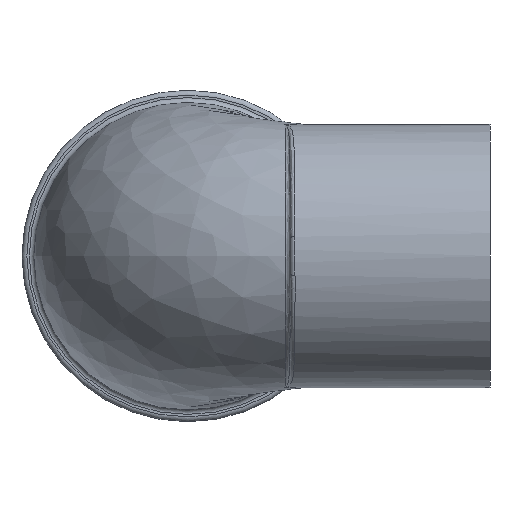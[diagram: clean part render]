
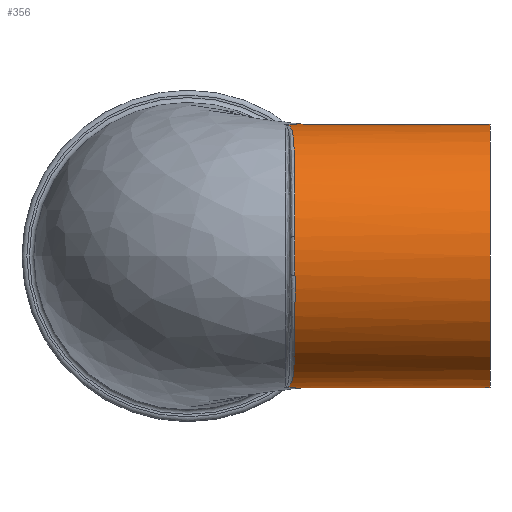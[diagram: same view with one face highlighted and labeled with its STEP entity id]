
A CAD part, front view. The second image highlights one B-rep face of the part: STEP entity #356.
In plain terms, the highlighted cylindrical face has radius 13.5 mm (diameter 27 mm), a full revolution.
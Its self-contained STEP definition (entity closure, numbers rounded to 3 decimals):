
#20=CYLINDRICAL_SURFACE('',#409,13.5);
#26=LINE('',#1068,#32);
#32=VECTOR('',#486,13.5);
#39=B_SPLINE_CURVE_WITH_KNOTS('',3,(#917,#918,#919,#920,#921,#922,#923,
#924,#925,#926,#927),.UNSPECIFIED.,.F.,.F.,(4,1,1,1,1,1,1,1,4),(0.009,
0.016,0.031,0.063,0.126,
0.252,0.755,1.258,1.761),
 .UNSPECIFIED.);
#43=B_SPLINE_CURVE_WITH_KNOTS('',3,(#1035,#1036,#1037,#1038,#1039,#1040,
#1041,#1042,#1043,#1044,#1045),.UNSPECIFIED.,.F.,.F.,(4,1,1,1,1,1,1,1,4),
(0.,0.755,1.258,1.509,1.635,
1.698,1.729,1.745,1.751),
 .UNSPECIFIED.);
#44=B_SPLINE_CURVE_WITH_KNOTS('',3,(#1048,#1049,#1050,#1051),
 .UNSPECIFIED.,.F.,.F.,(4,4),(-8.979,-8.896),
 .UNSPECIFIED.);
#45=B_SPLINE_CURVE_WITH_KNOTS('',3,(#1053,#1054,#1055,#1056,#1057,#1058,
#1059,#1060,#1061,#1062,#1063,#1064,#1065,#1066),.UNSPECIFIED.,.F.,.F.,
(4,2,2,2,2,2,4),(-1.886,-1.858,-1.463,
-1.073,-0.663,-0.24,0.),
 .UNSPECIFIED.);
#46=B_SPLINE_CURVE_WITH_KNOTS('',3,(#1073,#1074,#1075,#1076,#1077,#1078,
#1079,#1080,#1081,#1082,#1083,#1084,#1085,#1086),.UNSPECIFIED.,.F.,.F.,
(4,2,2,2,2,2,4),(-2.528,-2.201,-1.625,
-1.067,-0.537,0.,0.038),
 .UNSPECIFIED.);
#47=B_SPLINE_CURVE_WITH_KNOTS('',3,(#1087,#1088,#1089,#1090),
 .UNSPECIFIED.,.F.,.F.,(4,4),(-2.6,-2.523),
 .UNSPECIFIED.);
#72=FACE_OUTER_BOUND('',#95,.T.);
#95=EDGE_LOOP('',(#274,#275,#276,#277,#278,#279,#280,#281,#282,#283,#284));
#122=CIRCLE('',#408,13.5);
#123=CIRCLE('',#410,13.5);
#124=CIRCLE('',#411,13.5);
#153=VERTEX_POINT('',#902);
#154=VERTEX_POINT('',#916);
#156=VERTEX_POINT('',#943);
#158=VERTEX_POINT('',#1008);
#160=VERTEX_POINT('',#1047);
#161=VERTEX_POINT('',#1052);
#162=VERTEX_POINT('',#1067);
#163=VERTEX_POINT('',#1069);
#164=VERTEX_POINT('',#1072);
#196=EDGE_CURVE('',#153,#154,#39,.T.);
#201=EDGE_CURVE('',#154,#156,#122,.T.);
#204=EDGE_CURVE('',#156,#158,#43,.T.);
#205=EDGE_CURVE('',#160,#153,#44,.T.);
#206=EDGE_CURVE('',#161,#160,#45,.T.);
#207=EDGE_CURVE('',#161,#162,#26,.T.);
#208=EDGE_CURVE('',#162,#163,#123,.T.);
#209=EDGE_CURVE('',#163,#162,#124,.T.);
#210=EDGE_CURVE('',#164,#161,#46,.T.);
#211=EDGE_CURVE('',#158,#164,#47,.T.);
#274=ORIENTED_EDGE('',*,*,#204,.F.);
#275=ORIENTED_EDGE('',*,*,#201,.F.);
#276=ORIENTED_EDGE('',*,*,#196,.F.);
#277=ORIENTED_EDGE('',*,*,#205,.F.);
#278=ORIENTED_EDGE('',*,*,#206,.F.);
#279=ORIENTED_EDGE('',*,*,#207,.T.);
#280=ORIENTED_EDGE('',*,*,#208,.T.);
#281=ORIENTED_EDGE('',*,*,#209,.T.);
#282=ORIENTED_EDGE('',*,*,#207,.F.);
#283=ORIENTED_EDGE('',*,*,#210,.F.);
#284=ORIENTED_EDGE('',*,*,#211,.F.);
#356=ADVANCED_FACE('',(#72),#20,.T.);
#408=AXIS2_PLACEMENT_3D('',#947,#482,#483);
#409=AXIS2_PLACEMENT_3D('',#1046,#484,#485);
#410=AXIS2_PLACEMENT_3D('',#1070,#487,#488);
#411=AXIS2_PLACEMENT_3D('',#1071,#489,#490);
#482=DIRECTION('center_axis',(-1.,0.,0.));
#483=DIRECTION('ref_axis',(0.,-1.,0.));
#484=DIRECTION('center_axis',(-1.,0.,0.));
#485=DIRECTION('ref_axis',(0.,-1.,0.));
#486=DIRECTION('',(1.,0.,0.));
#487=DIRECTION('center_axis',(-1.,0.,0.));
#488=DIRECTION('ref_axis',(0.,-1.,0.));
#489=DIRECTION('center_axis',(-1.,0.,0.));
#490=DIRECTION('ref_axis',(0.,-1.,0.));
#902=CARTESIAN_POINT('',(10.03,-1.178,-13.448));
#916=CARTESIAN_POINT('',(11.,-13.355,-1.97));
#917=CARTESIAN_POINT('Ctrl Pts',(10.029,-1.182,-13.448));
#918=CARTESIAN_POINT('Ctrl Pts',(10.048,-1.189,-13.448));
#919=CARTESIAN_POINT('Ctrl Pts',(10.116,-1.231,-13.444));
#920=CARTESIAN_POINT('Ctrl Pts',(10.212,-1.387,-13.429));
#921=CARTESIAN_POINT('Ctrl Pts',(10.344,-1.739,-13.39));
#922=CARTESIAN_POINT('Ctrl Pts',(10.506,-2.478,-13.283));
#923=CARTESIAN_POINT('Ctrl Pts',(10.801,-4.799,-12.775));
#924=CARTESIAN_POINT('Ctrl Pts',(10.94,-8.384,-11.015));
#925=CARTESIAN_POINT('Ctrl Pts',(11.005,-11.918,-7.038));
#926=CARTESIAN_POINT('Ctrl Pts',(11.,-13.101,-3.693));
#927=CARTESIAN_POINT('Ctrl Pts',(11.,-13.355,-1.97));
#943=CARTESIAN_POINT('',(11.,-13.355,1.97));
#947=CARTESIAN_POINT('Origin',(11.,0.,0.));
#1008=CARTESIAN_POINT('',(10.03,-1.178,13.448));
#1035=CARTESIAN_POINT('Ctrl Pts',(11.,-13.355,1.97));
#1036=CARTESIAN_POINT('Ctrl Pts',(11.,-12.974,4.554));
#1037=CARTESIAN_POINT('Ctrl Pts',(11.004,-11.057,8.664));
#1038=CARTESIAN_POINT('Ctrl Pts',(10.894,-6.81,11.883));
#1039=CARTESIAN_POINT('Ctrl Pts',(10.699,-3.957,12.958));
#1040=CARTESIAN_POINT('Ctrl Pts',(10.506,-2.477,13.283));
#1041=CARTESIAN_POINT('Ctrl Pts',(10.344,-1.74,13.39));
#1042=CARTESIAN_POINT('Ctrl Pts',(10.213,-1.387,13.429));
#1043=CARTESIAN_POINT('Ctrl Pts',(10.115,-1.231,13.444));
#1044=CARTESIAN_POINT('Ctrl Pts',(10.049,-1.189,13.448));
#1045=CARTESIAN_POINT('Ctrl Pts',(10.029,-1.182,13.448));
#1046=CARTESIAN_POINT('Origin',(24.,0.,0.));
#1047=CARTESIAN_POINT('',(10.5,-0.894,-13.47));
#1048=CARTESIAN_POINT('Ctrl Pts',(10.5,-0.894,-13.47));
#1049=CARTESIAN_POINT('Ctrl Pts',(10.349,-0.997,-13.464));
#1050=CARTESIAN_POINT('Ctrl Pts',(10.193,-1.092,-13.456));
#1051=CARTESIAN_POINT('Ctrl Pts',(10.03,-1.178,-13.448));
#1052=CARTESIAN_POINT('',(16.806,13.5,0.));
#1053=CARTESIAN_POINT('Ctrl Pts',(16.806,13.5,0.));
#1054=CARTESIAN_POINT('Ctrl Pts',(16.806,13.5,-0.128));
#1055=CARTESIAN_POINT('Ctrl Pts',(16.806,13.498,-0.257));
#1056=CARTESIAN_POINT('Ctrl Pts',(16.792,13.443,-2.174));
#1057=CARTESIAN_POINT('Ctrl Pts',(16.701,13.036,-3.934));
#1058=CARTESIAN_POINT('Ctrl Pts',(16.363,11.578,-7.162));
#1059=CARTESIAN_POINT('Ctrl Pts',(16.12,10.55,-8.599));
#1060=CARTESIAN_POINT('Ctrl Pts',(15.406,7.972,-11.046));
#1061=CARTESIAN_POINT('Ctrl Pts',(14.946,6.47,-11.96));
#1062=CARTESIAN_POINT('Ctrl Pts',(13.741,3.384,-13.177));
#1063=CARTESIAN_POINT('Ctrl Pts',(13.031,1.931,-13.41));
#1064=CARTESIAN_POINT('Ctrl Pts',(11.714,0.148,-13.515));
#1065=CARTESIAN_POINT('Ctrl Pts',(11.161,-0.445,-13.5));
#1066=CARTESIAN_POINT('Ctrl Pts',(10.5,-0.894,-13.47));
#1067=CARTESIAN_POINT('',(31.,13.5,0.));
#1068=CARTESIAN_POINT('',(24.,13.5,0.));
#1069=CARTESIAN_POINT('',(31.,-13.5,0.));
#1070=CARTESIAN_POINT('Origin',(31.,0.,0.));
#1071=CARTESIAN_POINT('Origin',(31.,0.,0.));
#1072=CARTESIAN_POINT('',(10.5,-0.894,13.47));
#1073=CARTESIAN_POINT('Ctrl Pts',(10.5,-0.894,13.47));
#1074=CARTESIAN_POINT('Ctrl Pts',(11.161,-0.445,13.5));
#1075=CARTESIAN_POINT('Ctrl Pts',(11.714,0.148,13.515));
#1076=CARTESIAN_POINT('Ctrl Pts',(13.031,1.931,13.41));
#1077=CARTESIAN_POINT('Ctrl Pts',(13.741,3.384,13.177));
#1078=CARTESIAN_POINT('Ctrl Pts',(14.946,6.47,11.96));
#1079=CARTESIAN_POINT('Ctrl Pts',(15.406,7.972,11.046));
#1080=CARTESIAN_POINT('Ctrl Pts',(16.12,10.55,8.599));
#1081=CARTESIAN_POINT('Ctrl Pts',(16.363,11.578,7.162));
#1082=CARTESIAN_POINT('Ctrl Pts',(16.701,13.036,3.934));
#1083=CARTESIAN_POINT('Ctrl Pts',(16.792,13.443,2.174));
#1084=CARTESIAN_POINT('Ctrl Pts',(16.806,13.498,0.257));
#1085=CARTESIAN_POINT('Ctrl Pts',(16.806,13.5,0.128));
#1086=CARTESIAN_POINT('Ctrl Pts',(16.806,13.5,0.));
#1087=CARTESIAN_POINT('Ctrl Pts',(10.03,-1.178,13.448));
#1088=CARTESIAN_POINT('Ctrl Pts',(10.193,-1.092,13.456));
#1089=CARTESIAN_POINT('Ctrl Pts',(10.349,-0.997,13.464));
#1090=CARTESIAN_POINT('Ctrl Pts',(10.5,-0.894,13.47));
